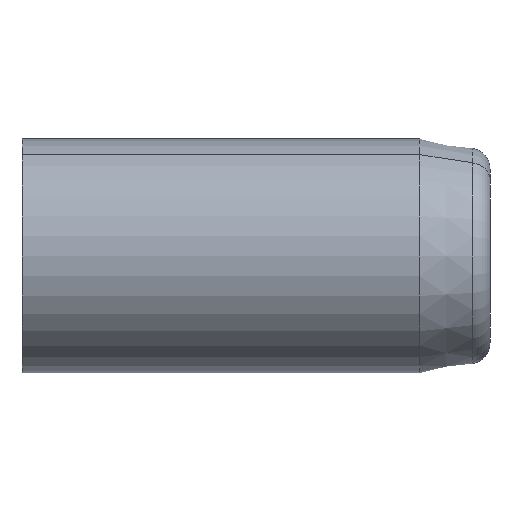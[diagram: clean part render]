
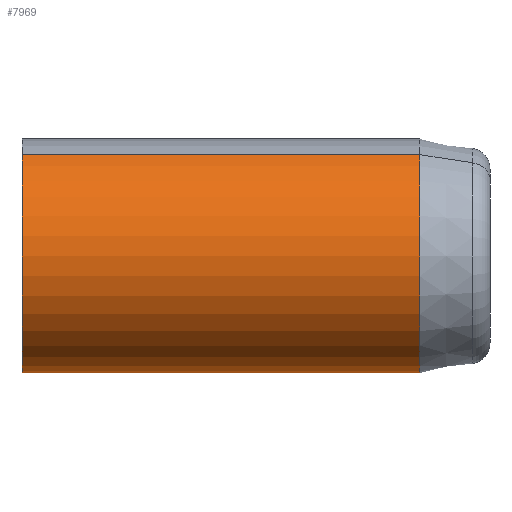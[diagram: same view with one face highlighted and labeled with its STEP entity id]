
A CAD part, left-side view. The second image highlights one B-rep face of the part: STEP entity #7969.
In plain terms, the highlighted cylindrical face has radius 5 mm (diameter 10 mm), a partial arc.
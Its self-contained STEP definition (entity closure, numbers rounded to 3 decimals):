
#1570 = CARTESIAN_POINT ( 'NONE',  ( 0., 10., 5. ) ) ;
#1596 = CARTESIAN_POINT ( 'NONE',  ( 0., 10., -5. ) ) ;
#2270 = LINE ( 'NONE', #2294, #8959 ) ;
#2281 = DIRECTION ( 'NONE',  ( 0., 1., 0. ) ) ;
#2294 = CARTESIAN_POINT ( 'NONE',  ( 0., -10.1, 5. ) ) ;
#2311 = DIRECTION ( 'NONE',  ( 0., 1., 0. ) ) ;
#2327 = CARTESIAN_POINT ( 'NONE',  ( 0., -10.1, -5. ) ) ;
#2340 = LINE ( 'NONE', #2327, #9022 ) ;
#2372 = DIRECTION ( 'NONE',  ( 0., -1., 0. ) ) ;
#2374 = DIRECTION ( 'NONE',  ( 0., 0., -1. ) ) ;
#2377 = CARTESIAN_POINT ( 'NONE',  ( 0., -7., 0. ) ) ;
#2403 = DIRECTION ( 'NONE',  ( 0., -1., 0. ) ) ;
#2424 = DIRECTION ( 'NONE',  ( -1., 0., 0. ) ) ;
#2435 = CARTESIAN_POINT ( 'NONE',  ( 0., 10., 0. ) ) ;
#2759 = AXIS2_PLACEMENT_3D ( 'NONE', #8367, #8324, #8338 ) ;
#4716 = ORIENTED_EDGE ( 'NONE', *, *, #10123, .F. ) ;
#4778 = ORIENTED_EDGE ( 'NONE', *, *, #10091, .T. ) ;
#4801 = ORIENTED_EDGE ( 'NONE', *, *, #10115, .F. ) ;
#4821 = ORIENTED_EDGE ( 'NONE', *, *, #10137, .T. ) ;
#5833 = CARTESIAN_POINT ( 'NONE',  ( 0., -7., -5. ) ) ;
#5842 = CARTESIAN_POINT ( 'NONE',  ( 0., -7., 5. ) ) ;
#6475 = VERTEX_POINT ( 'NONE', #1570 ) ;
#6529 = VERTEX_POINT ( 'NONE', #1596 ) ;
#6841 = VERTEX_POINT ( 'NONE', #5842 ) ;
#6845 = VERTEX_POINT ( 'NONE', #5833 ) ;
#7505 = EDGE_LOOP ( 'NONE', ( #4801, #4716, #4778, #4821 ) ) ;
#7969 = ADVANCED_FACE ( 'NONE', ( #8336 ), #8325, .T. ) ;
#8324 = DIRECTION ( 'NONE',  ( 0., 1., 0. ) ) ;
#8325 = CYLINDRICAL_SURFACE ( 'NONE', #2759, 5. ) ;
#8336 = FACE_OUTER_BOUND ( 'NONE', #7505, .T. ) ;
#8338 = DIRECTION ( 'NONE',  ( 0., 0., 1. ) ) ;
#8367 = CARTESIAN_POINT ( 'NONE',  ( 0., -10.1, 0. ) ) ;
#8959 = VECTOR ( 'NONE', #2281, 1000. ) ;
#9022 = VECTOR ( 'NONE', #2311, 1000. ) ;
#9032 = CIRCLE ( 'NONE', #9037, 5. ) ;
#9037 = AXIS2_PLACEMENT_3D ( 'NONE', #2377, #2372, #2374 ) ;
#9044 = AXIS2_PLACEMENT_3D ( 'NONE', #2435, #2403, #2424 ) ;
#9083 = CIRCLE ( 'NONE', #9044, 5. ) ;
#10091 = EDGE_CURVE ( 'NONE', #6841, #6475, #2270, .T. ) ;
#10115 = EDGE_CURVE ( 'NONE', #6845, #6529, #2340, .T. ) ;
#10123 = EDGE_CURVE ( 'NONE', #6841, #6845, #9032, .T. ) ;
#10137 = EDGE_CURVE ( 'NONE', #6475, #6529, #9083, .T. ) ;
